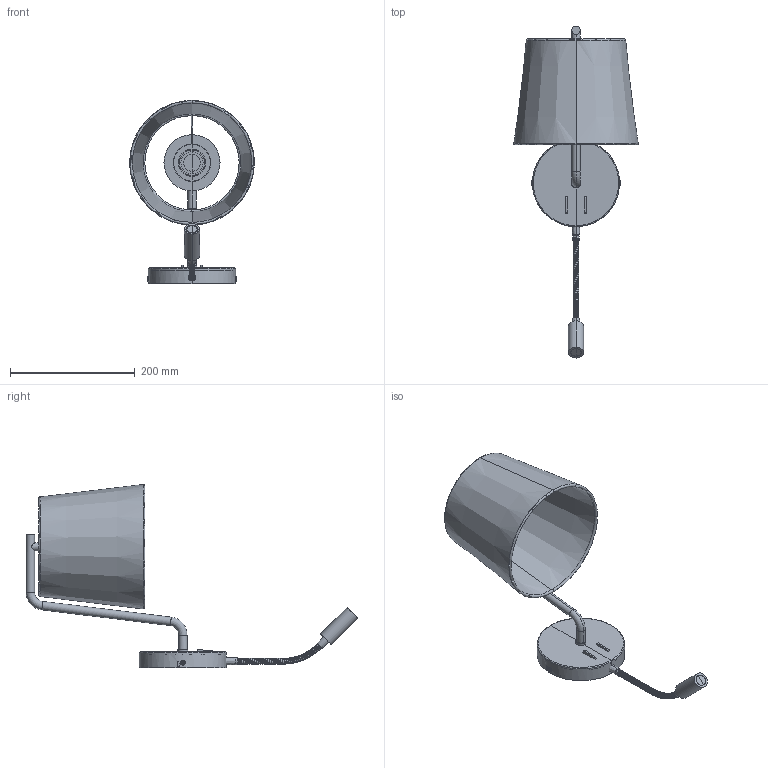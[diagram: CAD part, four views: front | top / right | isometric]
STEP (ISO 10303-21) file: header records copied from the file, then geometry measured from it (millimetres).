
FILE_DESCRIPTION(/* description */ (''),/* implementation_level */ '2;1');
FILE_NAME(/* name */ 'C:\Users\FrancoSartori\Documents\FARO\01_En Proceso\000_SOLICITUD INFO SIN PROCESAR\00_BERNI\03_Publicación\29329_29330_29331.stp',/* time_stamp */ '2022-09-01T09:50:09+02:00',/* author */ ('FrancoSartori'),/* organization */ (''),/* preprocessor_version */ 'ST-DEVELOPER v19.2',/* originating_system */ 'AutoCAD Mechanical',/* authorisation */ '');
FILE_SCHEMA (('AUTOMOTIVE_DESIGN { 1 0 10303 214 3 1 1 }'));
Length unit declared in the file: millimetre
Products named in the file (4): Product; BERNI_WL - LAMP-478590-Export; BERNI_WL - 29329_dwg_17004 M4x8-478529-Export; BERNI_WL - 29329_dwg_17004 M4x8-478529-Export_1
Assembly tree (3 placements, depth 3):
  Product
    BERNI_WL - LAMP-478590-Export
      BERNI_WL - 29329_dwg_17004 M4x8-478529-Export
      BERNI_WL - 29329_dwg_17004 M4x8-478529-Export_1
Bounding box: 199.98 x 532.94 x 293.99 mm (x, y, z)
Volume: 401380 mm3; surface area: 520025.1 mm2
Topology: 14 solids, 20 shells, 502 faces, 1662 edges, 1090 vertices
Faces by surface type: plane 170, bspline 143, cylinder 102, torus 65, cone 18, sphere 4
Entity records: 42448 total; most frequent: CARTESIAN_POINT 29500, ORIENTED_EDGE 2724, DIRECTION 2178, EDGE_CURVE 1658, VERTEX_POINT 1088, LINE 796, VECTOR 796, AXIS2_PLACEMENT_3D 691
